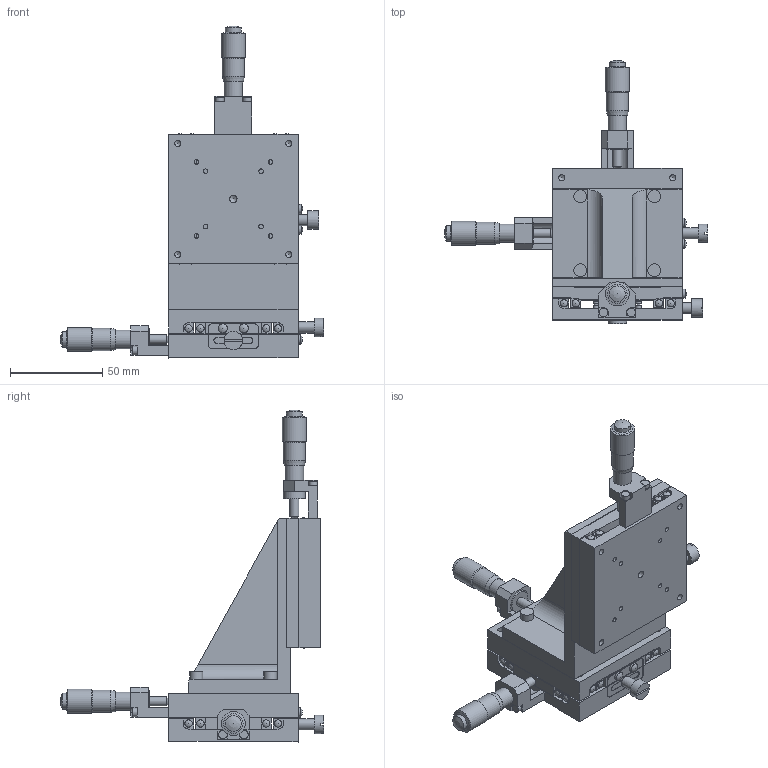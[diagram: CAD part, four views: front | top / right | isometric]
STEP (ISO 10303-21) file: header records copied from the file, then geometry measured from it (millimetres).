
FILE_DESCRIPTION( ( 'STEP AP203' ), '1' );
FILE_NAME( 'C:/3D-Trans/3D_BSS73-70A+080828.step', '2008-08-28T04:15:18', ( ' ' ), ( ' ' ), 'XStep 1.0', ' ', ' ' );
FILE_SCHEMA( ( 'CONFIG_CONTROL_DESIGN' ) );
Length unit declared in the file: millimetre
Products named in the file (9): 1; 2; 3; 4; 5; 6; 7; 8; 9
Bounding box: 142.3 x 142.3 x 179.5 mm (x, y, z)
Volume: 298834.8 mm3; surface area: 114707.2 mm2
Topology: 9 solids, 13 shells, 605 faces, 1591 edges, 1051 vertices
Faces by surface type: plane 325, cylinder 224, sphere 37, cone 19
Full cylindrical faces by diameter (mm): 2 x8, 2.5 x16, 2.6 x4, 3 x23, 3.3 x16, 3.5 x6, 4 x28, 4.5 x8, 4.7 x6, 5 x13, 6 x3, 7 x4, 8 x8, 8.6 x3, 10 x6, 10.5 x3, 12 x6, 13 x5
Entity records: 16804 total; most frequent: DIRECTION 2906, CARTESIAN_POINT 2740, ORIENTED_EDGE 2430, EDGE_CURVE 1215, AXIS2_PLACEMENT_3D 1077, EDGE_LOOP 960, VERTEX_POINT 911, FACE_OUTER_BOUND 771
